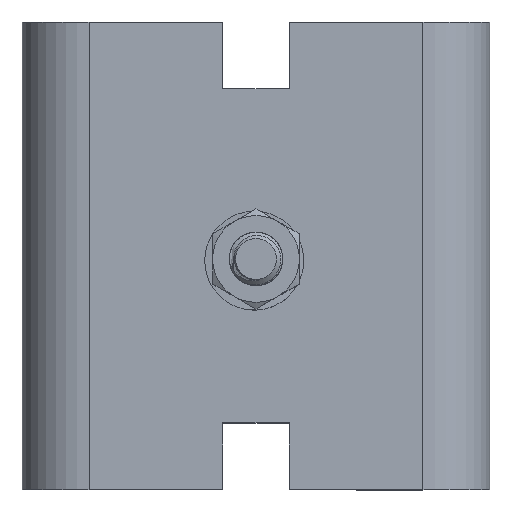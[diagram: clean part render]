
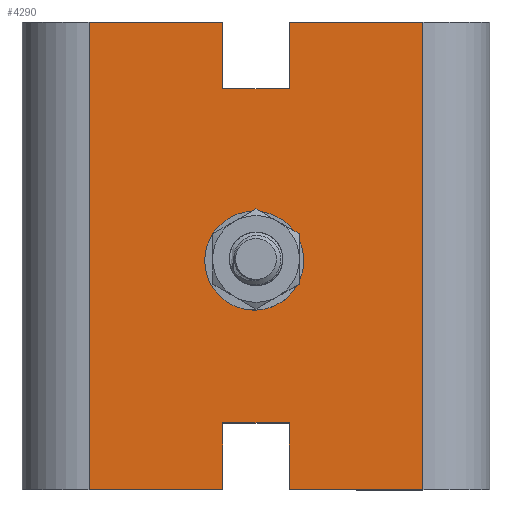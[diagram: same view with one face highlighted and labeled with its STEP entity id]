
A CAD part, top view. The second image highlights one B-rep face of the part: STEP entity #4290.
In plain terms, the highlighted planar face has unit normal (0, 0, 1).
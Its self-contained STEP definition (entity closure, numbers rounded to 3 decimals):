
#561=FACE_BOUND('',#1093,.T.);
#610=CIRCLE('',#4593,5.);
#840=FACE_OUTER_BOUND('',#1092,.T.);
#1092=EDGE_LOOP('',(#3916,#3917,#3918,#3919,#3920,#3921,#3922,#3923,#3924,
#3925,#3926,#3927));
#1093=EDGE_LOOP('',(#3928));
#1333=LINE('',#18441,#1601);
#1337=LINE('',#18450,#1605);
#1340=LINE('',#18454,#1608);
#1344=LINE('',#18466,#1612);
#1345=LINE('',#18469,#1613);
#1349=LINE('',#18481,#1617);
#1350=LINE('',#18483,#1618);
#1351=LINE('',#18485,#1619);
#1352=LINE('',#18487,#1620);
#1353=LINE('',#18489,#1621);
#1354=LINE('',#18491,#1622);
#1355=LINE('',#18492,#1623);
#1601=VECTOR('',#5297,10.);
#1605=VECTOR('',#5303,10.);
#1608=VECTOR('',#5308,10.);
#1612=VECTOR('',#5318,10.);
#1613=VECTOR('',#5321,10.);
#1617=VECTOR('',#5331,10.);
#1618=VECTOR('',#5332,10.);
#1619=VECTOR('',#5333,10.);
#1620=VECTOR('',#5334,10.);
#1621=VECTOR('',#5335,10.);
#1622=VECTOR('',#5336,10.);
#1623=VECTOR('',#5337,10.);
#2033=VERTEX_POINT('',#18438);
#2034=VERTEX_POINT('',#18440);
#2037=VERTEX_POINT('',#18447);
#2038=VERTEX_POINT('',#18449);
#2043=VERTEX_POINT('',#18464);
#2044=VERTEX_POINT('',#18468);
#2049=VERTEX_POINT('',#18480);
#2050=VERTEX_POINT('',#18482);
#2051=VERTEX_POINT('',#18484);
#2052=VERTEX_POINT('',#18486);
#2053=VERTEX_POINT('',#18488);
#2054=VERTEX_POINT('',#18490);
#2055=VERTEX_POINT('',#18493);
#2659=EDGE_CURVE('',#2034,#2033,#1333,.T.);
#2663=EDGE_CURVE('',#2038,#2037,#1337,.T.);
#2666=EDGE_CURVE('',#2033,#2038,#1340,.T.);
#2672=EDGE_CURVE('',#2043,#2037,#1344,.T.);
#2673=EDGE_CURVE('',#2034,#2044,#1345,.T.);
#2679=EDGE_CURVE('',#2049,#2043,#1349,.T.);
#2680=EDGE_CURVE('',#2049,#2050,#1350,.T.);
#2681=EDGE_CURVE('',#2050,#2051,#1351,.T.);
#2682=EDGE_CURVE('',#2051,#2052,#1352,.T.);
#2683=EDGE_CURVE('',#2052,#2053,#1353,.T.);
#2684=EDGE_CURVE('',#2053,#2054,#1354,.T.);
#2685=EDGE_CURVE('',#2054,#2044,#1355,.T.);
#2686=EDGE_CURVE('',#2055,#2055,#610,.T.);
#3916=ORIENTED_EDGE('',*,*,#2659,.T.);
#3917=ORIENTED_EDGE('',*,*,#2666,.T.);
#3918=ORIENTED_EDGE('',*,*,#2663,.T.);
#3919=ORIENTED_EDGE('',*,*,#2672,.F.);
#3920=ORIENTED_EDGE('',*,*,#2679,.F.);
#3921=ORIENTED_EDGE('',*,*,#2680,.T.);
#3922=ORIENTED_EDGE('',*,*,#2681,.T.);
#3923=ORIENTED_EDGE('',*,*,#2682,.T.);
#3924=ORIENTED_EDGE('',*,*,#2683,.T.);
#3925=ORIENTED_EDGE('',*,*,#2684,.T.);
#3926=ORIENTED_EDGE('',*,*,#2685,.T.);
#3927=ORIENTED_EDGE('',*,*,#2673,.F.);
#3928=ORIENTED_EDGE('',*,*,#2686,.T.);
#4055=PLANE('',#4592);
#4290=ADVANCED_FACE('',(#840,#561),#4055,.T.);
#4592=AXIS2_PLACEMENT_3D('',#18479,#5329,#5330);
#4593=AXIS2_PLACEMENT_3D('',#18494,#5338,#5339);
#5297=DIRECTION('',(0.,-1.,0.));
#5303=DIRECTION('',(0.,1.,0.));
#5308=DIRECTION('',(-1.,0.,0.));
#5318=DIRECTION('',(1.,0.,0.));
#5321=DIRECTION('',(1.,0.,0.));
#5329=DIRECTION('center_axis',(0.,0.,1.));
#5330=DIRECTION('ref_axis',(1.,0.,0.));
#5331=DIRECTION('',(0.,1.,0.));
#5332=DIRECTION('',(1.,0.,0.));
#5333=DIRECTION('',(0.,1.,0.));
#5334=DIRECTION('',(1.,0.,0.));
#5335=DIRECTION('',(0.,-1.,0.));
#5336=DIRECTION('',(1.,0.,0.));
#5337=DIRECTION('',(0.,1.,0.));
#5338=DIRECTION('center_axis',(0.,0.,-1.));
#5339=DIRECTION('ref_axis',(-1.,0.,0.));
#18438=CARTESIAN_POINT('',(40.,60.,20.));
#18440=CARTESIAN_POINT('',(40.,70.,20.));
#18441=CARTESIAN_POINT('',(40.,35.,20.));
#18447=CARTESIAN_POINT('',(30.,70.,20.));
#18449=CARTESIAN_POINT('',(30.,60.,20.));
#18450=CARTESIAN_POINT('',(30.,30.,20.));
#18454=CARTESIAN_POINT('',(25.,60.,20.));
#18464=CARTESIAN_POINT('',(10.,70.,20.));
#18466=CARTESIAN_POINT('',(10.,70.,20.));
#18468=CARTESIAN_POINT('',(60.,70.,20.));
#18469=CARTESIAN_POINT('',(10.,70.,20.));
#18479=CARTESIAN_POINT('Origin',(10.,0.,20.));
#18480=CARTESIAN_POINT('',(10.,0.,20.));
#18481=CARTESIAN_POINT('',(10.,0.,20.));
#18482=CARTESIAN_POINT('',(30.,0.,20.));
#18483=CARTESIAN_POINT('',(10.,0.,20.));
#18484=CARTESIAN_POINT('',(30.,10.,20.));
#18485=CARTESIAN_POINT('',(30.,0.,20.));
#18486=CARTESIAN_POINT('',(40.,10.,20.));
#18487=CARTESIAN_POINT('',(20.,10.,20.));
#18488=CARTESIAN_POINT('',(40.,0.,20.));
#18489=CARTESIAN_POINT('',(40.,5.,20.));
#18490=CARTESIAN_POINT('',(60.,0.,20.));
#18491=CARTESIAN_POINT('',(10.,0.,20.));
#18492=CARTESIAN_POINT('',(60.,0.,20.));
#18493=CARTESIAN_POINT('',(40.,34.5,20.));
#18494=CARTESIAN_POINT('Origin',(35.,34.5,20.));
